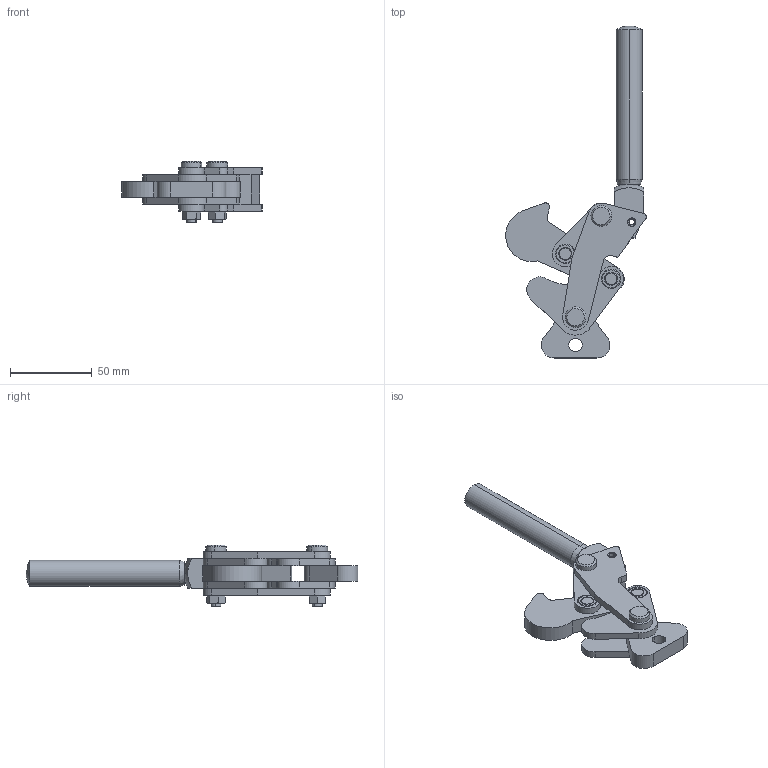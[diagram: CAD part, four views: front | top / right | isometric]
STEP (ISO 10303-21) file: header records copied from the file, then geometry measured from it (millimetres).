
FILE_DESCRIPTION (( 'STEP AP203' ), '1' );
FILE_NAME ('KFU-03 A.STEP', '2012-11-22T18:42:10', ( 'Ricardo' ), ( '' ), 'SwSTEP 2.0', 'SolidWorks 2012', '' );
FILE_SCHEMA (( 'CONFIG_CONTROL_DESIGN' ));
Length unit declared in the file: millimetre
Products named in the file (15): 05.20004; 05.20003; 05.20002; 03.15001_Montagem; 08.10001_Montagem; 01.10001_Montagem; 15.10001_Montagem; 02.11004_Montagem; KFU-03 A; 11.50001; 01.20001; 16.50001; 15.20001; 16.20001; 12.50001
Assembly tree (27 placements, depth 2):
  KFU-03 A
    02.11004_Montagem
    15.10001_Montagem  x2
    01.10001_Montagem  x2
    08.10001_Montagem  x2
    03.15001_Montagem
    05.20002
    05.20003
    05.20004  x8
    12.50001  x2
    16.20001  x2
    15.20001
    16.50001
    01.20001
    11.50001  x2
Bounding box: 86.29 x 203.6 x 38 mm (x, y, z)
Volume: 89182.5 mm3; surface area: 45971.6 mm2
Topology: 27 solids, 27 shells, 356 faces, 788 edges, 491 vertices
Faces by surface type: cylinder 153, plane 104, cone 95, sphere 4
Entity records: 7500 total; most frequent: DIRECTION 1055, CARTESIAN_POINT 1044, ORIENTED_EDGE 856, AXIS2_PLACEMENT_3D 434, EDGE_CURVE 428, VERTEX_POINT 271, EDGE_LOOP 225, CIRCLE 215
